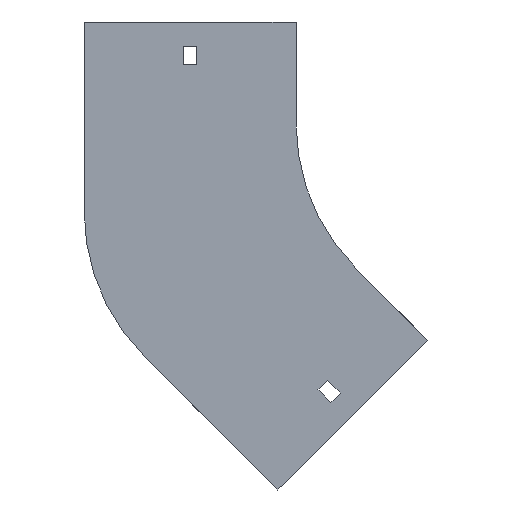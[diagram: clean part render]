
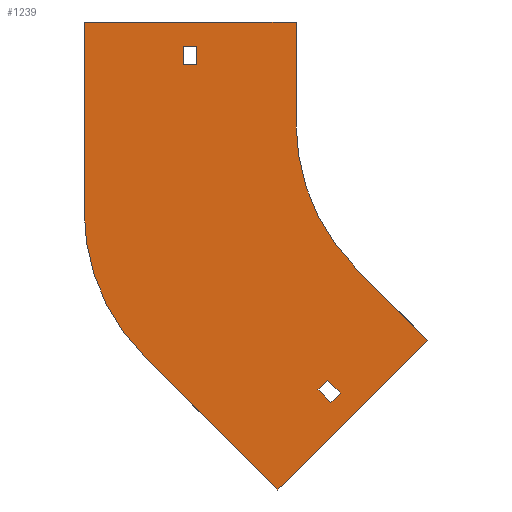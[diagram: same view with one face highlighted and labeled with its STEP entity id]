
A CAD part, front view. The second image highlights one B-rep face of the part: STEP entity #1239.
In plain terms, the highlighted planar face has unit normal (0, -1, 0).
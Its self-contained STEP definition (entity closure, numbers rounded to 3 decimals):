
#12 = DIRECTION ( 'NONE',  ( 0., 0., -1. ) ) ;
#26 = FACE_BOUND ( 'NONE', #478, .T. ) ;
#28 = EDGE_CURVE ( 'NONE', #554, #1301, #702, .T. ) ;
#48 = ORIENTED_EDGE ( 'NONE', *, *, #1065, .T. ) ;
#76 = CARTESIAN_POINT ( 'NONE',  ( -78.312, 0., -132.052 ) ) ;
#78 = EDGE_CURVE ( 'NONE', #473, #158, #1262, .T. ) ;
#83 = DIRECTION ( 'NONE',  ( 0., 0., -1. ) ) ;
#89 = LINE ( 'NONE', #745, #251 ) ;
#91 = DIRECTION ( 'NONE',  ( 0., 0., 1. ) ) ;
#132 = CARTESIAN_POINT ( 'NONE',  ( -100., 0., 50. ) ) ;
#153 = DIRECTION ( 'NONE',  ( 0., 0., 1. ) ) ;
#154 = ORIENTED_EDGE ( 'NONE', *, *, #1169, .T. ) ;
#158 = VERTEX_POINT ( 'NONE', #428 ) ;
#160 = DIRECTION ( 'NONE',  ( 0., 0., -1. ) ) ;
#171 = LINE ( 'NONE', #1053, #1255 ) ;
#189 = LINE ( 'NONE', #1061, #490 ) ;
#201 = VECTOR ( 'NONE', #160, 1000. ) ;
#220 = DIRECTION ( 'NONE',  ( 0., 0., -1. ) ) ;
#237 = DIRECTION ( 'NONE',  ( 0., 0., 1. ) ) ;
#238 = FACE_BOUND ( 'NONE', #674, .T. ) ;
#246 = VERTEX_POINT ( 'NONE', #765 ) ;
#251 = VECTOR ( 'NONE', #1281, 1000. ) ;
#253 = LINE ( 'NONE', #1340, #580 ) ;
#263 = CIRCLE ( 'NONE', #504, 100. ) ;
#268 = LINE ( 'NONE', #811, #201 ) ;
#301 = VERTEX_POINT ( 'NONE', #1402 ) ;
#302 = CARTESIAN_POINT ( 'NONE',  ( -100., 0., 50. ) ) ;
#352 = DIRECTION ( 'NONE',  ( 0., -1., 0. ) ) ;
#357 = VECTOR ( 'NONE', #463, 1000. ) ;
#389 = DIRECTION ( 'NONE',  ( 0.707, 0., -0.707 ) ) ;
#409 = CIRCLE ( 'NONE', #1213, 100. ) ;
#428 = CARTESIAN_POINT ( 'NONE',  ( -82.908, 0., -136.648 ) ) ;
#444 = VERTEX_POINT ( 'NONE', #1084 ) ;
#463 = DIRECTION ( 'NONE',  ( 0.707, 0., 0.707 ) ) ;
#467 = DIRECTION ( 'NONE',  ( -0.707, 0., 0.707 ) ) ;
#473 = VERTEX_POINT ( 'NONE', #575 ) ;
#476 = EDGE_CURVE ( 'NONE', #1301, #301, #263, .T. ) ;
#478 = EDGE_LOOP ( 'NONE', ( #1388, #1357, #649, #1216 ) ) ;
#490 = VECTOR ( 'NONE', #738, 1000. ) ;
#504 = AXIS2_PLACEMENT_3D ( 'NONE', #1143, #901, #237 ) ;
#506 = EDGE_CURVE ( 'NONE', #246, #729, #253, .T. ) ;
#543 = CARTESIAN_POINT ( 'NONE',  ( 0., 0., 0. ) ) ;
#544 = ORIENTED_EDGE ( 'NONE', *, *, #819, .T. ) ;
#554 = VERTEX_POINT ( 'NONE', #804 ) ;
#569 = VERTEX_POINT ( 'NONE', #887 ) ;
#575 = CARTESIAN_POINT ( 'NONE',  ( -89.272, 0., -130.284 ) ) ;
#580 = VECTOR ( 'NONE', #1223, 1000. ) ;
#592 = VERTEX_POINT ( 'NONE', #1030 ) ;
#596 = DIRECTION ( 'NONE',  ( -0.707, 0., -0.707 ) ) ;
#606 = DIRECTION ( 'NONE',  ( 0.707, 0., -0.707 ) ) ;
#613 = ORIENTED_EDGE ( 'NONE', *, *, #727, .F. ) ;
#615 = VECTOR ( 'NONE', #1260, 1000. ) ;
#635 = VERTEX_POINT ( 'NONE', #1243 ) ;
#645 = EDGE_CURVE ( 'NONE', #444, #473, #813, .T. ) ;
#646 = ORIENTED_EDGE ( 'NONE', *, *, #506, .F. ) ;
#649 = ORIENTED_EDGE ( 'NONE', *, *, #645, .F. ) ;
#654 = CARTESIAN_POINT ( 'NONE',  ( -155.25, 0., 29. ) ) ;
#655 = VECTOR ( 'NONE', #153, 1000. ) ;
#661 = EDGE_CURVE ( 'NONE', #301, #246, #788, .T. ) ;
#668 = PLANE ( 'NONE',  #974 ) ;
#674 = EDGE_LOOP ( 'NONE', ( #544, #1099, #48, #154 ) ) ;
#691 = CARTESIAN_POINT ( 'NONE',  ( 0., 0., 0. ) ) ;
#702 = LINE ( 'NONE', #1017, #777 ) ;
#705 = LINE ( 'NONE', #1032, #615 ) ;
#709 = VECTOR ( 'NONE', #91, 1000. ) ;
#727 = EDGE_CURVE ( 'NONE', #1270, #569, #409, .T. ) ;
#729 = VERTEX_POINT ( 'NONE', #132 ) ;
#738 = DIRECTION ( 'NONE',  ( -0.707, 0., -0.707 ) ) ;
#745 = CARTESIAN_POINT ( 'NONE',  ( -84.676, 0., -125.688 ) ) ;
#762 = EDGE_CURVE ( 'NONE', #729, #1270, #1063, .T. ) ;
#765 = CARTESIAN_POINT ( 'NONE',  ( -204., 0., 50. ) ) ;
#777 = VECTOR ( 'NONE', #467, 1000. ) ;
#787 = ORIENTED_EDGE ( 'NONE', *, *, #1212, .F. ) ;
#788 = LINE ( 'NONE', #1025, #655 ) ;
#804 = CARTESIAN_POINT ( 'NONE',  ( -108.894, 0., -179.605 ) ) ;
#809 = VERTEX_POINT ( 'NONE', #1384 ) ;
#811 = CARTESIAN_POINT ( 'NONE',  ( -148.75, 0., 29. ) ) ;
#813 = LINE ( 'NONE', #1204, #839 ) ;
#819 = EDGE_CURVE ( 'NONE', #1186, #913, #1071, .T. ) ;
#832 = ORIENTED_EDGE ( 'NONE', *, *, #1379, .F. ) ;
#839 = VECTOR ( 'NONE', #596, 1000. ) ;
#865 = CARTESIAN_POINT ( 'NONE',  ( -155.25, 0., 29. ) ) ;
#887 = CARTESIAN_POINT ( 'NONE',  ( -70.711, 0., -70.711 ) ) ;
#901 = DIRECTION ( 'NONE',  ( 0., 1., 0. ) ) ;
#913 = VERTEX_POINT ( 'NONE', #1004 ) ;
#950 = VECTOR ( 'NONE', #1299, 1000. ) ;
#957 = CARTESIAN_POINT ( 'NONE',  ( -155.25, 0., 29. ) ) ;
#973 = ORIENTED_EDGE ( 'NONE', *, *, #661, .F. ) ;
#974 = AXIS2_PLACEMENT_3D ( 'NONE', #691, #352, #220 ) ;
#975 = VECTOR ( 'NONE', #83, 1000. ) ;
#990 = VERTEX_POINT ( 'NONE', #76 ) ;
#1001 = FACE_OUTER_BOUND ( 'NONE', #1044, .T. ) ;
#1004 = CARTESIAN_POINT ( 'NONE',  ( -155.25, 0., 38. ) ) ;
#1017 = CARTESIAN_POINT ( 'NONE',  ( -108.894, 0., -179.605 ) ) ;
#1021 = ORIENTED_EDGE ( 'NONE', *, *, #28, .F. ) ;
#1025 = CARTESIAN_POINT ( 'NONE',  ( -204., 0., -43.078 ) ) ;
#1030 = CARTESIAN_POINT ( 'NONE',  ( -148.75, 0., 38. ) ) ;
#1031 = ORIENTED_EDGE ( 'NONE', *, *, #762, .F. ) ;
#1032 = CARTESIAN_POINT ( 'NONE',  ( -155.25, 0., 38. ) ) ;
#1044 = EDGE_LOOP ( 'NONE', ( #646, #973, #1331, #1021, #787, #832, #613, #1031 ) ) ;
#1053 = CARTESIAN_POINT ( 'NONE',  ( -70.711, 0., -70.711 ) ) ;
#1061 = CARTESIAN_POINT ( 'NONE',  ( -35.355, 0., -106.066 ) ) ;
#1063 = LINE ( 'NONE', #302, #975 ) ;
#1065 = EDGE_CURVE ( 'NONE', #592, #635, #268, .T. ) ;
#1071 = LINE ( 'NONE', #957, #709 ) ;
#1073 = EDGE_CURVE ( 'NONE', #913, #592, #705, .T. ) ;
#1084 = CARTESIAN_POINT ( 'NONE',  ( -84.676, 0., -125.688 ) ) ;
#1098 = CARTESIAN_POINT ( 'NONE',  ( -100., 0., 0. ) ) ;
#1099 = ORIENTED_EDGE ( 'NONE', *, *, #1073, .T. ) ;
#1114 = EDGE_CURVE ( 'NONE', #990, #444, #89, .T. ) ;
#1123 = CARTESIAN_POINT ( 'NONE',  ( -82.908, 0., -136.648 ) ) ;
#1143 = CARTESIAN_POINT ( 'NONE',  ( -104., 0., -43.078 ) ) ;
#1169 = EDGE_CURVE ( 'NONE', #635, #1186, #1292, .T. ) ;
#1186 = VERTEX_POINT ( 'NONE', #654 ) ;
#1204 = CARTESIAN_POINT ( 'NONE',  ( -89.272, 0., -130.284 ) ) ;
#1209 = CARTESIAN_POINT ( 'NONE',  ( -174.711, 0., -113.789 ) ) ;
#1212 = EDGE_CURVE ( 'NONE', #809, #554, #189, .T. ) ;
#1213 = AXIS2_PLACEMENT_3D ( 'NONE', #543, #1248, #12 ) ;
#1216 = ORIENTED_EDGE ( 'NONE', *, *, #1114, .F. ) ;
#1223 = DIRECTION ( 'NONE',  ( 1., 0., 0. ) ) ;
#1239 = ADVANCED_FACE ( 'NONE', ( #238, #1001, #26 ), #668, .T. ) ;
#1243 = CARTESIAN_POINT ( 'NONE',  ( -148.75, 0., 29. ) ) ;
#1248 = DIRECTION ( 'NONE',  ( 0., -1., 0. ) ) ;
#1255 = VECTOR ( 'NONE', #606, 1000. ) ;
#1260 = DIRECTION ( 'NONE',  ( 1., 0., 0. ) ) ;
#1262 = LINE ( 'NONE', #1394, #1321 ) ;
#1270 = VERTEX_POINT ( 'NONE', #1098 ) ;
#1273 = EDGE_CURVE ( 'NONE', #158, #990, #1330, .T. ) ;
#1281 = DIRECTION ( 'NONE',  ( -0.707, 0., 0.707 ) ) ;
#1292 = LINE ( 'NONE', #865, #950 ) ;
#1299 = DIRECTION ( 'NONE',  ( -1., 0., 0. ) ) ;
#1301 = VERTEX_POINT ( 'NONE', #1209 ) ;
#1321 = VECTOR ( 'NONE', #389, 1000. ) ;
#1330 = LINE ( 'NONE', #1123, #357 ) ;
#1331 = ORIENTED_EDGE ( 'NONE', *, *, #476, .F. ) ;
#1340 = CARTESIAN_POINT ( 'NONE',  ( -204., 0., 50. ) ) ;
#1357 = ORIENTED_EDGE ( 'NONE', *, *, #78, .F. ) ;
#1379 = EDGE_CURVE ( 'NONE', #569, #809, #171, .T. ) ;
#1384 = CARTESIAN_POINT ( 'NONE',  ( -35.355, 0., -106.066 ) ) ;
#1388 = ORIENTED_EDGE ( 'NONE', *, *, #1273, .F. ) ;
#1394 = CARTESIAN_POINT ( 'NONE',  ( -89.272, 0., -130.284 ) ) ;
#1402 = CARTESIAN_POINT ( 'NONE',  ( -204., 0., -43.078 ) ) ;
